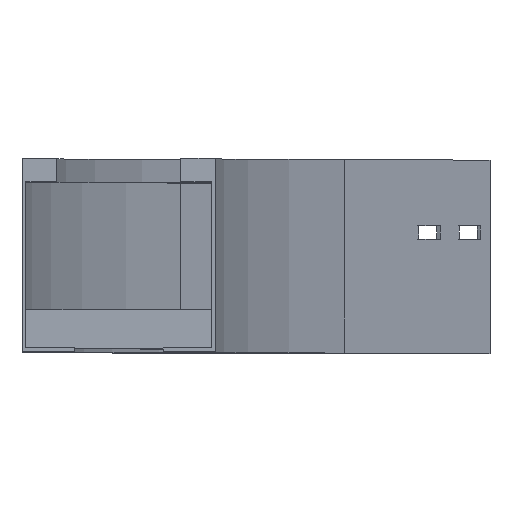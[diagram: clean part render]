
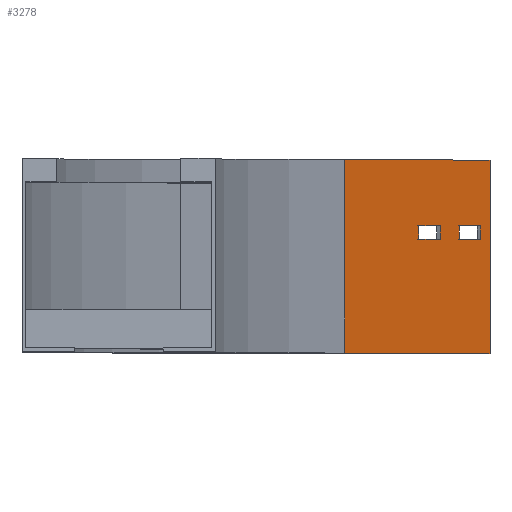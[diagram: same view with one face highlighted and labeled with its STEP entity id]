
A CAD part, top view. The second image highlights one B-rep face of the part: STEP entity #3278.
In plain terms, the highlighted planar face has unit normal (0.866, 0, 0.5).
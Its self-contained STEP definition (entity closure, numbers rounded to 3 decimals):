
#46 = DIRECTION ( 'NONE',  ( 0., 1., 0. ) ) ;
#75 = ORIENTED_EDGE ( 'NONE', *, *, #1782, .T. ) ;
#83 = EDGE_LOOP ( 'NONE', ( #1812, #104, #1180, #512 ) ) ;
#104 = ORIENTED_EDGE ( 'NONE', *, *, #671, .F. ) ;
#132 = ORIENTED_EDGE ( 'NONE', *, *, #244, .F. ) ;
#168 = DIRECTION ( 'NONE',  ( 0.5, 0., -0.866 ) ) ;
#214 = VECTOR ( 'NONE', #786, 1000. ) ;
#244 = EDGE_CURVE ( 'NONE', #1999, #622, #3260, .T. ) ;
#264 = CARTESIAN_POINT ( 'NONE',  ( 66.987, 0., -400. ) ) ;
#305 = DIRECTION ( 'NONE',  ( 0., 1., 0. ) ) ;
#342 = VERTEX_POINT ( 'NONE', #2763 ) ;
#459 = DIRECTION ( 'NONE',  ( 0.5, 0., -0.866 ) ) ;
#460 = ORIENTED_EDGE ( 'NONE', *, *, #1507, .F. ) ;
#512 = ORIENTED_EDGE ( 'NONE', *, *, #2833, .F. ) ;
#547 = ORIENTED_EDGE ( 'NONE', *, *, #3008, .F. ) ;
#567 = VECTOR ( 'NONE', #305, 1000. ) ;
#577 = FACE_BOUND ( 'NONE', #83, .T. ) ;
#584 = LINE ( 'NONE', #1800, #1757 ) ;
#622 = VERTEX_POINT ( 'NONE', #821 ) ;
#634 = CARTESIAN_POINT ( 'NONE',  ( 141.987, 100., -529.904 ) ) ;
#657 = EDGE_LOOP ( 'NONE', ( #547, #132, #75, #3333 ) ) ;
#671 = EDGE_CURVE ( 'NONE', #1568, #1437, #3356, .T. ) ;
#699 = CARTESIAN_POINT ( 'NONE',  ( 116.235, 59., -485.299 ) ) ;
#711 = CARTESIAN_POINT ( 'NONE',  ( 141.987, 0., -529.904 ) ) ;
#716 = VERTEX_POINT ( 'NONE', #634 ) ;
#739 = VECTOR ( 'NONE', #1063, 1000. ) ;
#750 = EDGE_CURVE ( 'NONE', #1437, #3780, #3637, .T. ) ;
#763 = VECTOR ( 'NONE', #2109, 1000. ) ;
#767 = VECTOR ( 'NONE', #168, 1000. ) ;
#786 = DIRECTION ( 'NONE',  ( 0., -1., 0. ) ) ;
#792 = CARTESIAN_POINT ( 'NONE',  ( 66.987, 0., -400. ) ) ;
#821 = CARTESIAN_POINT ( 'NONE',  ( 66.987, 100., -400. ) ) ;
#826 = LINE ( 'NONE', #2610, #2315 ) ;
#937 = CARTESIAN_POINT ( 'NONE',  ( 116.235, 66., -485.299 ) ) ;
#977 = DIRECTION ( 'NONE',  ( -0.5, 0., 0.866 ) ) ;
#979 = LINE ( 'NONE', #2169, #2107 ) ;
#1017 = CARTESIAN_POINT ( 'NONE',  ( 126.07, 66., -502.334 ) ) ;
#1033 = CARTESIAN_POINT ( 'NONE',  ( 137.07, 59., -521.386 ) ) ;
#1063 = DIRECTION ( 'NONE',  ( 0., -1., 0. ) ) ;
#1065 = CARTESIAN_POINT ( 'NONE',  ( 137.07, 59., -521.386 ) ) ;
#1143 = CARTESIAN_POINT ( 'NONE',  ( 66.987, 0., -400. ) ) ;
#1155 = ORIENTED_EDGE ( 'NONE', *, *, #2024, .F. ) ;
#1180 = ORIENTED_EDGE ( 'NONE', *, *, #2326, .F. ) ;
#1397 = EDGE_CURVE ( 'NONE', #1862, #716, #979, .T. ) ;
#1437 = VERTEX_POINT ( 'NONE', #937 ) ;
#1440 = CARTESIAN_POINT ( 'NONE',  ( 66.987, 100., -400. ) ) ;
#1497 = PLANE ( 'NONE',  #2021 ) ;
#1507 = EDGE_CURVE ( 'NONE', #3529, #3175, #2244, .T. ) ;
#1529 = CARTESIAN_POINT ( 'NONE',  ( 105.235, 59., -466.247 ) ) ;
#1538 = LINE ( 'NONE', #2141, #2237 ) ;
#1568 = VERTEX_POINT ( 'NONE', #699 ) ;
#1591 = VECTOR ( 'NONE', #977, 1000. ) ;
#1699 = CARTESIAN_POINT ( 'NONE',  ( 105.235, 66., -466.247 ) ) ;
#1757 = VECTOR ( 'NONE', #1779, 1000. ) ;
#1760 = LINE ( 'NONE', #2093, #567 ) ;
#1776 = VECTOR ( 'NONE', #2678, 1000. ) ;
#1779 = DIRECTION ( 'NONE',  ( -0.5, 0., 0.866 ) ) ;
#1782 = EDGE_CURVE ( 'NONE', #1999, #1862, #1538, .T. ) ;
#1800 = CARTESIAN_POINT ( 'NONE',  ( 137.07, 66., -521.386 ) ) ;
#1812 = ORIENTED_EDGE ( 'NONE', *, *, #750, .F. ) ;
#1862 = VERTEX_POINT ( 'NONE', #711 ) ;
#1936 = LINE ( 'NONE', #1699, #214 ) ;
#1999 = VERTEX_POINT ( 'NONE', #792 ) ;
#2021 = AXIS2_PLACEMENT_3D ( 'NONE', #1143, #2409, #2337 ) ;
#2024 = EDGE_CURVE ( 'NONE', #2696, #3529, #2599, .T. ) ;
#2082 = DIRECTION ( 'NONE',  ( 0.5, 0., -0.866 ) ) ;
#2093 = CARTESIAN_POINT ( 'NONE',  ( 137.07, 66., -521.386 ) ) ;
#2107 = VECTOR ( 'NONE', #46, 1000. ) ;
#2109 = DIRECTION ( 'NONE',  ( 0.5, 0., -0.866 ) ) ;
#2141 = CARTESIAN_POINT ( 'NONE',  ( 66.987, 0., -400. ) ) ;
#2145 = CARTESIAN_POINT ( 'NONE',  ( 116.235, 66., -485.299 ) ) ;
#2169 = CARTESIAN_POINT ( 'NONE',  ( 141.987, 0., -529.904 ) ) ;
#2237 = VECTOR ( 'NONE', #2082, 1000. ) ;
#2244 = LINE ( 'NONE', #1033, #767 ) ;
#2307 = CARTESIAN_POINT ( 'NONE',  ( 126.07, 66., -502.334 ) ) ;
#2308 = CARTESIAN_POINT ( 'NONE',  ( 126.07, 59., -502.334 ) ) ;
#2315 = VECTOR ( 'NONE', #459, 1000. ) ;
#2326 = EDGE_CURVE ( 'NONE', #2514, #1568, #826, .T. ) ;
#2337 = DIRECTION ( 'NONE',  ( -0.5, 0., 0.866 ) ) ;
#2409 = DIRECTION ( 'NONE',  ( -0.866, 0., -0.5 ) ) ;
#2458 = CARTESIAN_POINT ( 'NONE',  ( 105.235, 66., -466.247 ) ) ;
#2502 = ORIENTED_EDGE ( 'NONE', *, *, #2583, .F. ) ;
#2510 = EDGE_CURVE ( 'NONE', #3175, #342, #1760, .T. ) ;
#2514 = VERTEX_POINT ( 'NONE', #1529 ) ;
#2565 = VECTOR ( 'NONE', #3815, 1000. ) ;
#2583 = EDGE_CURVE ( 'NONE', #342, #2696, #584, .T. ) ;
#2599 = LINE ( 'NONE', #2307, #739 ) ;
#2610 = CARTESIAN_POINT ( 'NONE',  ( 116.235, 59., -485.299 ) ) ;
#2678 = DIRECTION ( 'NONE',  ( 0., 1., 0. ) ) ;
#2680 = LINE ( 'NONE', #1440, #763 ) ;
#2696 = VERTEX_POINT ( 'NONE', #1017 ) ;
#2737 = CARTESIAN_POINT ( 'NONE',  ( 116.235, 66., -485.299 ) ) ;
#2763 = CARTESIAN_POINT ( 'NONE',  ( 137.07, 66., -521.386 ) ) ;
#2833 = EDGE_CURVE ( 'NONE', #3780, #2514, #1936, .T. ) ;
#3008 = EDGE_CURVE ( 'NONE', #622, #716, #2680, .T. ) ;
#3175 = VERTEX_POINT ( 'NONE', #1065 ) ;
#3254 = FACE_BOUND ( 'NONE', #3770, .T. ) ;
#3260 = LINE ( 'NONE', #264, #2565 ) ;
#3278 = ADVANCED_FACE ( 'NONE', ( #3254, #577, #3810 ), #1497, .F. ) ;
#3333 = ORIENTED_EDGE ( 'NONE', *, *, #1397, .T. ) ;
#3356 = LINE ( 'NONE', #2737, #1776 ) ;
#3461 = ORIENTED_EDGE ( 'NONE', *, *, #2510, .F. ) ;
#3529 = VERTEX_POINT ( 'NONE', #2308 ) ;
#3637 = LINE ( 'NONE', #2145, #1591 ) ;
#3770 = EDGE_LOOP ( 'NONE', ( #1155, #2502, #3461, #460 ) ) ;
#3780 = VERTEX_POINT ( 'NONE', #2458 ) ;
#3810 = FACE_OUTER_BOUND ( 'NONE', #657, .T. ) ;
#3815 = DIRECTION ( 'NONE',  ( 0., 1., 0. ) ) ;
